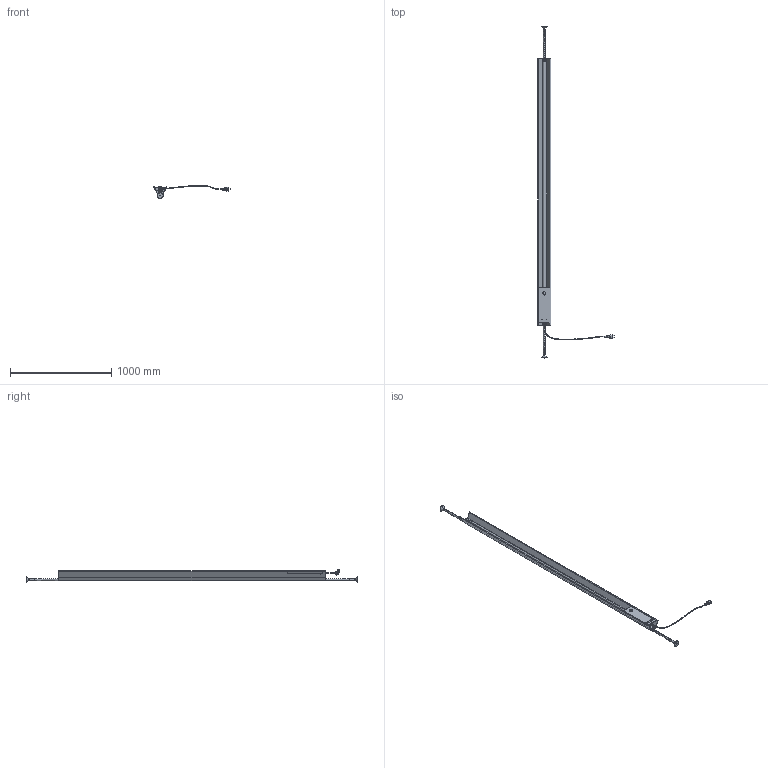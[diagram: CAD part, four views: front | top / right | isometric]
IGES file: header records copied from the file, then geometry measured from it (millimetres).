
Start section: SolidWorks IGES file using analytic representation for surfaces
Global section: file name: G:\Il mio Drive\00 File Sito\LT8\LT8 h.2 2630.IGS; native system: SolidWorks 2024; preprocessor: SolidWorks 2024; author: Tecnico; date: 240920.125033; units: millimetre
Bounding box: 754.62 x 3276 x 129.41 mm (x, y, z)
Surface area: 2026901.9 mm2 (no closed solid volume)
Topology: 0 solids, 0 shells, 1317 faces, 14876 edges, 14742 vertices
Faces by surface type: bspline 688, revolution 629
